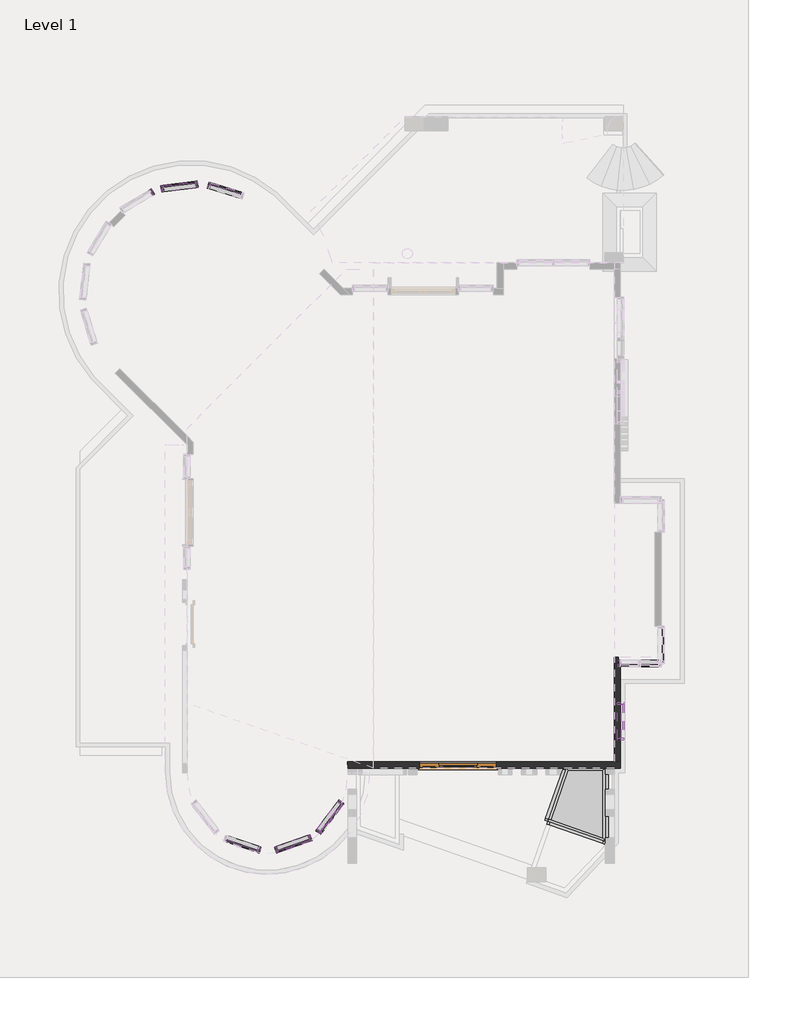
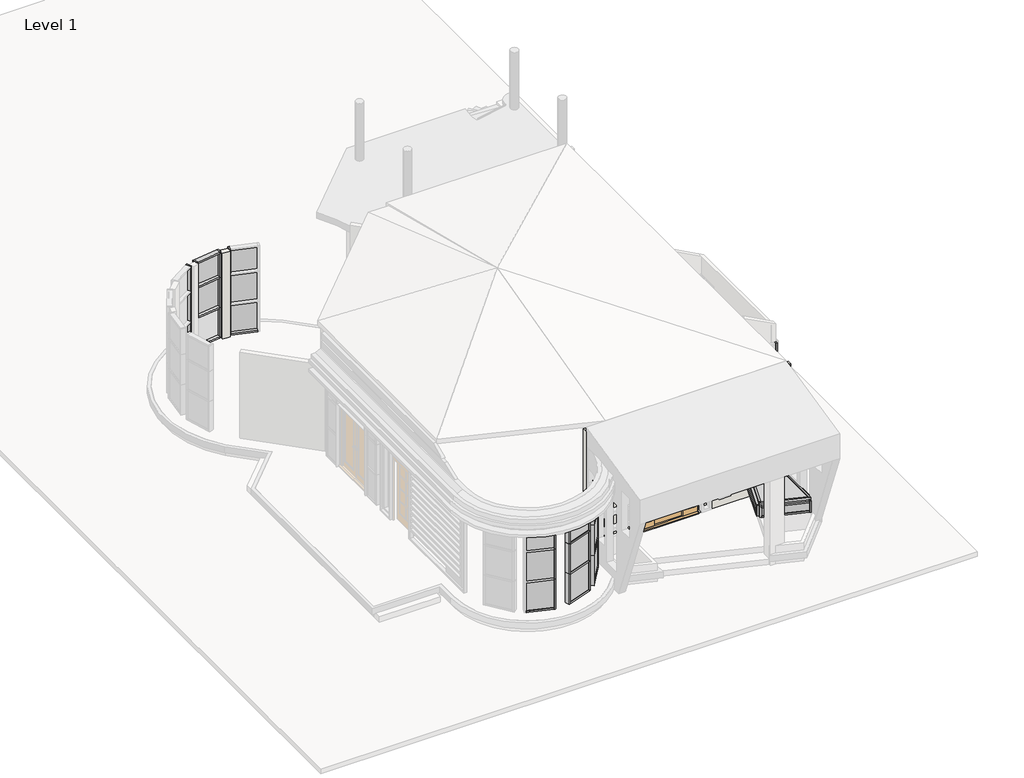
# One storey, part 2 of 4: 67 members, 24 plates, 5 walls, 1 door.
"""IFC4 building model written with IfcOpenShell, lengths in millimetres."""

from ifc_helpers import new_model, si_unit, point, frame, frame_2d, origin, origin_with_axes, place, context, project, spatial, polyline, circle_curve, trimmed, segment, composite_curve, outline, extrude, faceted_brep, transform, mapped, element, save
from ifc_brep_helpers import plane_surface, revolved_surface, advanced_brep
from components import door_assembly_sgl_1810mm_opening_with_926_leaf_9757ed1b, rectangular_mullion_50_x_150mm_13f891bf, rectangular_mullion_50_x_150mm_97641222, rectangular_mullion_50_x_150mm_3a621c38, rectangular_mullion_50_x_150mm_eeb88b28, rectangular_mullion_50_x_150mm_bbba4ab8, rectangular_mullion_50_x_150mm_48361b01, rectangular_mullion_50_x_150mm_ee81d58a, rectangular_mullion_50_x_150mm_74a08e02, rectangular_mullion_50_x_150mm_2be98281, rectangular_mullion_50_x_150mm_4646c6ee, rectangular_mullion_50_x_150mm_daea3674, rectangular_mullion_50_x_150mm_5f51f6d8, rectangular_mullion_50_x_150mm_5cce3f76, rectangular_mullion_50_x_150mm_b83c4d09, rectangular_mullion_50_x_150mm_16fa530b, rectangular_mullion_50_x_150mm_766d3ac7, rectangular_mullion_50_x_150mm_7725a657, rectangular_mullion_50_x_150mm_d930d7b6, rectangular_mullion_50_x_150mm_c1b074c6, rectangular_mullion_50_x_150mm_6b703a19, rectangular_mullion_50_x_150mm_84e0e8e7, system_panel_glazed_3806e4db, system_panel_glazed_63c8d6ba, system_panel_glazed_2e86a5ac, system_panel_glazed_273a2703, system_panel_glazed_25410d68, system_panel_glazed_165b51f8, system_panel_glazed_b436b430, system_panel_glazed_7936f581, system_panel_glazed_d253aa96, system_panel_glazed_11873290, system_panel_glazed_95d26cfe, system_panel_glazed_8d2e26c9, system_panel_glazed_6dbe1d55, system_panel_glazed_d75f38c2, system_panel_glazed_89d05f72, system_panel_glazed_453545d8, system_panel_glazed_4c1991e1, system_panel_glazed_4431897c, system_panel_glazed_b51f43c0, system_panel_glazed_f0325da4, system_panel_glazed_f2c8e767, system_panel_glazed_b2c14eaf

model = new_model("IFC4")

# Units and contexts
model_context = context("Model", 3, world=origin())
ifc_project = project(units=[si_unit("LENGTHUNIT", "METRE", prefix="MILLI")], contexts=[model_context])

# Site, building, storey
site = spatial("IfcSite", under=ifc_project)
building = spatial("IfcBuilding", under=site)
storey = spatial("IfcBuildingStorey", under=building, Name="Level 1", Elevation=0.0)

# Door
placement = place(None, origin())
door_assembly_sgl_1810mm_opening_with_926_leaf_shape = door_assembly_sgl_1810mm_opening_with_926_leaf_9757ed1b(model_context)
element("IfcDoor", 1, ObjectType="Door Assembly Sgl : 1810mm Opening with 926 Leaf", at=placement, inside=storey, context=model_context, shape_type="MappedRepresentation", body=[
    mapped(door_assembly_sgl_1810mm_opening_with_926_leaf_shape, transform((37487.3942411, 16991.0716817, 360.0), x_axis=(-1.0, 0.0, 0.0), y_axis=(0.0, -1.0, 0.0), z_axis=(0.0, 0.0, 1.0))),
])

# Members
rectangular_mullion_50_x_150mm_shape = rectangular_mullion_50_x_150mm_13f891bf(model_context)
element("IfcMember", 2, ObjectType="Rectangular Mullion : 50 x 150mm", at=placement, inside=storey, context=model_context, shape_type="MappedRepresentation", body=[
    mapped(rectangular_mullion_50_x_150mm_shape, transform((31370.6859933, 30603.0232362, 360.0), x_axis=(0.0, 0.0, -1.0), y_axis=(-0.29965542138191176, -0.954047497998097, 0.0), z_axis=(-0.954047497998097, 0.29965542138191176, 0.0))),
])
rectangular_mullion_50_x_150mm_2_shape = rectangular_mullion_50_x_150mm_97641222(model_context)
element("IfcMember", 3, ObjectType="Rectangular Mullion : 50 x 150mm", at=placement, inside=storey, context=model_context, shape_type="MappedRepresentation", body=[
    mapped(rectangular_mullion_50_x_150mm_2_shape, transform((30266.2914527, 30538.925774, 360.0), x_axis=(0.0, 0.0, -1.0), y_axis=(0.1248486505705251, -0.9921757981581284, 0.0), z_axis=(-0.9921757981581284, -0.1248486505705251, 0.0))),
])
rectangular_mullion_50_x_150mm_3_shape = rectangular_mullion_50_x_150mm_3a621c38(model_context)
element("IfcMember", 4, ObjectType="Rectangular Mullion : 50 x 150mm", at=placement, inside=storey, context=model_context, shape_type="MappedRepresentation", body=[
    mapped(rectangular_mullion_50_x_150mm_3_shape, transform((31023.8252581, 30634.248673, 1360.0), x_axis=(0.0, 0.0, 1.0), y_axis=(0.1248486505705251, -0.9921757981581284, 0.0), z_axis=(0.9921757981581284, 0.1248486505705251, 0.0))),
])
rectangular_mullion_50_x_150mm_4_shape = rectangular_mullion_50_x_150mm_eeb88b28(model_context)
element("IfcMember", 5, ObjectType="Rectangular Mullion : 50 x 150mm", at=placement, inside=storey, context=model_context, shape_type="MappedRepresentation", body=[
    mapped(rectangular_mullion_50_x_150mm_4_shape, transform((31073.434048, 30640.4911055, 360.0), x_axis=(0.9921757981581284, 0.1248486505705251, 0.0), y_axis=(0.1248486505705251, -0.9921757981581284, 0.0), z_axis=(0.0, 0.0, -1.0))),
])
element("IfcMember", 6, ObjectType="Rectangular Mullion : 50 x 150mm", at=placement, inside=storey, context=model_context, shape_type="MappedRepresentation", body=[
    mapped(rectangular_mullion_50_x_150mm_4_shape, transform((30018.1657035, 30464.1523722, 360.0), x_axis=(0.8576176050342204, 0.514287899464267, 0.0), y_axis=(0.514287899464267, -0.8576176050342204, 0.0), z_axis=(0.0, 0.0, -1.0))),
])
element("IfcMember", 7, ObjectType="Rectangular Mullion : 50 x 150mm", at=placement, inside=storey, context=model_context, shape_type="MappedRepresentation", body=[
    mapped(rectangular_mullion_50_x_150mm_4_shape, transform((32907.9639385, 14995.3118702, 360.0), x_axis=(-0.9438397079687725, -0.3304037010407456, 0.0), y_axis=(-0.3304037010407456, 0.9438397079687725, 0.0), z_axis=(0.0, 0.0, -1.0))),
])
element("IfcMember", 8, ObjectType="Rectangular Mullion : 50 x 150mm", at=placement, inside=storey, context=model_context, shape_type="MappedRepresentation", body=[
    mapped(rectangular_mullion_50_x_150mm_4_shape, transform((33905.0764025, 15406.0798059, 360.0), x_axis=(-0.6047016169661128, -0.7964521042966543, 0.0), y_axis=(-0.7964521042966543, 0.6047016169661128, 0.0), z_axis=(0.0, 0.0, -1.0))),
])
element("IfcMember", 9, ObjectType="Rectangular Mullion : 50 x 150mm", at=placement, inside=storey, context=model_context, shape_type="MappedRepresentation", body=[
    mapped(rectangular_mullion_50_x_150mm_4_shape, transform((40959.1830624, 19377.4424795, 342.0479065), x_axis=(-1.0, 0.0, 0.0), y_axis=(0.0, 1.0, 0.0), z_axis=(0.0, 0.0, -1.0))),
])
element("IfcMember", 10, ObjectType="Rectangular Mullion : 50 x 150mm", at=placement, inside=storey, context=model_context, shape_type="MappedRepresentation", body=[
    mapped(rectangular_mullion_50_x_150mm_4_shape, transform((31073.434048, 30640.4911055, 1360.0), x_axis=(0.9921757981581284, 0.1248486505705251, 0.0), y_axis=(0.1248486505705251, -0.9921757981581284, 0.0), z_axis=(0.0, 0.0, -1.0))),
])
element("IfcMember", 11, ObjectType="Rectangular Mullion : 50 x 150mm", at=placement, inside=storey, context=model_context, shape_type="MappedRepresentation", body=[
    mapped(rectangular_mullion_50_x_150mm_4_shape, transform((30018.1657035, 30464.1523722, 1360.0), x_axis=(0.8576176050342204, 0.514287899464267, 0.0), y_axis=(0.514287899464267, -0.8576176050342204, 0.0), z_axis=(0.0, 0.0, -1.0))),
])
element("IfcMember", 12, ObjectType="Rectangular Mullion : 50 x 150mm", at=placement, inside=storey, context=model_context, shape_type="MappedRepresentation", body=[
    mapped(rectangular_mullion_50_x_150mm_4_shape, transform((32907.9639385, 14995.3118702, 1360.0), x_axis=(-0.9438397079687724, -0.3304037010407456, 0.0), y_axis=(-0.3304037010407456, 0.9438397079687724, 0.0), z_axis=(0.0, 0.0, -1.0))),
])
element("IfcMember", 13, ObjectType="Rectangular Mullion : 50 x 150mm", at=placement, inside=storey, context=model_context, shape_type="MappedRepresentation", body=[
    mapped(rectangular_mullion_50_x_150mm_4_shape, transform((33905.0764025, 15406.0798059, 1360.0), x_axis=(-0.6047016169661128, -0.7964521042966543, 0.0), y_axis=(-0.7964521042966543, 0.6047016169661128, 0.0), z_axis=(0.0, 0.0, -1.0))),
])
element("IfcMember", 14, ObjectType="Rectangular Mullion : 50 x 150mm", at=placement, inside=storey, context=model_context, shape_type="MappedRepresentation", body=[
    mapped(rectangular_mullion_50_x_150mm_4_shape, transform((40959.1830624, 19377.4424795, 1342.0479065), x_axis=(-1.0, 0.0, 0.0), y_axis=(0.0, 1.0, 0.0), z_axis=(0.0, 0.0, -1.0))),
])
element("IfcMember", 15, ObjectType="Rectangular Mullion : 50 x 150mm", at=placement, inside=storey, context=model_context, shape_type="MappedRepresentation", body=[
    mapped(rectangular_mullion_50_x_150mm_4_shape, transform((31322.9836184, 30618.0060072, 1360.0), x_axis=(-0.954047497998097, 0.29965542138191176, 0.0), y_axis=(-0.29965542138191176, -0.954047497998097, 0.0), z_axis=(0.0, 0.0, 1.0))),
])
element("IfcMember", 16, ObjectType="Rectangular Mullion : 50 x 150mm", at=placement, inside=storey, context=model_context, shape_type="MappedRepresentation", body=[
    mapped(rectangular_mullion_50_x_150mm_4_shape, transform((30216.6826628, 30532.6833415, 1360.0), x_axis=(-0.9921757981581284, -0.1248486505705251, 0.0), y_axis=(0.1248486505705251, -0.9921757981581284, 0.0), z_axis=(0.0, 0.0, 1.0))),
])
element("IfcMember", 17, ObjectType="Rectangular Mullion : 50 x 150mm", at=placement, inside=storey, context=model_context, shape_type="MappedRepresentation", body=[
    mapped(rectangular_mullion_50_x_150mm_4_shape, transform((32538.4228334, 14993.7088834, 1360.0), x_axis=(0.9470945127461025, -0.32095480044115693, 0.0), y_axis=(0.32095480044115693, 0.9470945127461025, 0.0), z_axis=(0.0, 0.0, 1.0))),
])
element("IfcMember", 18, ObjectType="Rectangular Mullion : 50 x 150mm", at=placement, inside=storey, context=model_context, shape_type="MappedRepresentation", body=[
    mapped(rectangular_mullion_50_x_150mm_4_shape, transform((33739.2176416, 15286.3033359, 1360.0), x_axis=(0.9438397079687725, 0.3304037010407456, 0.0), y_axis=(-0.3304037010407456, 0.9438397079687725, 0.0), z_axis=(0.0, 0.0, 1.0))),
])
element("IfcMember", 19, ObjectType="Rectangular Mullion : 50 x 150mm", at=placement, inside=storey, context=model_context, shape_type="MappedRepresentation", body=[
    mapped(rectangular_mullion_50_x_150mm_4_shape, transform((34453.7796255, 16128.7764621, 1360.0), x_axis=(0.6047016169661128, 0.7964521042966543, 0.0), y_axis=(-0.7964521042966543, 0.6047016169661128, 0.0), z_axis=(0.0, 0.0, 1.0))),
])
element("IfcMember", 20, ObjectType="Rectangular Mullion : 50 x 150mm", at=placement, inside=storey, context=model_context, shape_type="MappedRepresentation", body=[
    mapped(rectangular_mullion_50_x_150mm_4_shape, transform((31322.9836184, 30618.0060072, 2360.0), x_axis=(-0.954047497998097, 0.2996554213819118, 0.0), y_axis=(-0.2996554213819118, -0.954047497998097, 0.0), z_axis=(0.0, 0.0, 1.0))),
])
element("IfcMember", 21, ObjectType="Rectangular Mullion : 50 x 150mm", at=placement, inside=storey, context=model_context, shape_type="MappedRepresentation", body=[
    mapped(rectangular_mullion_50_x_150mm_4_shape, transform((30216.6826628, 30532.6833415, 2360.0), x_axis=(-0.9921757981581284, -0.1248486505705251, 0.0), y_axis=(0.1248486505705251, -0.9921757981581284, 0.0), z_axis=(0.0, 0.0, 1.0))),
])
element("IfcMember", 22, ObjectType="Rectangular Mullion : 50 x 150mm", at=placement, inside=storey, context=model_context, shape_type="MappedRepresentation", body=[
    mapped(rectangular_mullion_50_x_150mm_4_shape, transform((32538.4228334, 14993.7088834, 2360.0), x_axis=(0.9470945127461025, -0.32095480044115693, 0.0), y_axis=(0.32095480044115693, 0.9470945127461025, 0.0), z_axis=(0.0, 0.0, 1.0))),
])
element("IfcMember", 23, ObjectType="Rectangular Mullion : 50 x 150mm", at=placement, inside=storey, context=model_context, shape_type="MappedRepresentation", body=[
    mapped(rectangular_mullion_50_x_150mm_4_shape, transform((33739.2176416, 15286.3033359, 2360.0), x_axis=(0.9438397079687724, 0.3304037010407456, 0.0), y_axis=(-0.3304037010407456, 0.9438397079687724, 0.0), z_axis=(0.0, 0.0, 1.0))),
])
element("IfcMember", 24, ObjectType="Rectangular Mullion : 50 x 150mm", at=placement, inside=storey, context=model_context, shape_type="MappedRepresentation", body=[
    mapped(rectangular_mullion_50_x_150mm_4_shape, transform((34453.7796255, 16128.7764621, 2360.0), x_axis=(0.6047016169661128, 0.7964521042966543, 0.0), y_axis=(-0.7964521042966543, 0.6047016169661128, 0.0), z_axis=(0.0, 0.0, 1.0))),
])
rectangular_mullion_50_x_150mm_5_shape = rectangular_mullion_50_x_150mm_bbba4ab8(model_context)
element("IfcMember", 25, ObjectType="Rectangular Mullion : 50 x 150mm", at=placement, inside=storey, context=model_context, shape_type="MappedRepresentation", body=[
    mapped(rectangular_mullion_50_x_150mm_5_shape, transform((31322.9836184, 30618.0060072, 3200.0), x_axis=(-0.954047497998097, 0.2996554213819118, 0.0), y_axis=(-0.2996554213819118, -0.954047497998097, 0.0), z_axis=(0.0, 0.0, 1.0))),
])
element("IfcMember", 26, ObjectType="Rectangular Mullion : 50 x 150mm", at=placement, inside=storey, context=model_context, shape_type="MappedRepresentation", body=[
    mapped(rectangular_mullion_50_x_150mm_5_shape, transform((30216.6826628, 30532.6833415, 3200.0), x_axis=(-0.9921757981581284, -0.12484865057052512, 0.0), y_axis=(0.12484865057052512, -0.9921757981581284, 0.0), z_axis=(0.0, 0.0, 1.0))),
])
element("IfcMember", 27, ObjectType="Rectangular Mullion : 50 x 150mm", at=placement, inside=storey, context=model_context, shape_type="MappedRepresentation", body=[
    mapped(rectangular_mullion_50_x_150mm_5_shape, transform((32538.4228334, 14993.7088834, 3200.0), x_axis=(0.9470945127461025, -0.32095480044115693, 0.0), y_axis=(0.32095480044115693, 0.9470945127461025, 0.0), z_axis=(0.0, 0.0, 1.0))),
])
element("IfcMember", 28, ObjectType="Rectangular Mullion : 50 x 150mm", at=placement, inside=storey, context=model_context, shape_type="MappedRepresentation", body=[
    mapped(rectangular_mullion_50_x_150mm_5_shape, transform((33739.2176416, 15286.3033359, 3200.0), x_axis=(0.9438397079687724, 0.3304037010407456, 0.0), y_axis=(-0.3304037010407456, 0.9438397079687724, 0.0), z_axis=(0.0, 0.0, 1.0))),
])
element("IfcMember", 29, ObjectType="Rectangular Mullion : 50 x 150mm", at=placement, inside=storey, context=model_context, shape_type="MappedRepresentation", body=[
    mapped(rectangular_mullion_50_x_150mm_5_shape, transform((34453.7796255, 16128.7764621, 3200.0), x_axis=(0.6047016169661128, 0.7964521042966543, 0.0), y_axis=(-0.7964521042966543, 0.6047016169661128, 0.0), z_axis=(0.0, 0.0, 1.0))),
])
element("IfcMember", 30, ObjectType="Rectangular Mullion : 50 x 150mm", at=placement, inside=storey, context=model_context, shape_type="MappedRepresentation", body=[
    mapped(rectangular_mullion_50_x_150mm_5_shape, transform((31073.434048, 30640.4911055, 2360.0), x_axis=(0.9921757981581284, 0.12484865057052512, 0.0), y_axis=(0.12484865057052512, -0.9921757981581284, 0.0), z_axis=(0.0, 0.0, -1.0))),
])
element("IfcMember", 31, ObjectType="Rectangular Mullion : 50 x 150mm", at=placement, inside=storey, context=model_context, shape_type="MappedRepresentation", body=[
    mapped(rectangular_mullion_50_x_150mm_5_shape, transform((30018.1657035, 30464.1523722, 2360.0), x_axis=(0.8576176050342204, 0.5142878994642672, 0.0), y_axis=(0.5142878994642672, -0.8576176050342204, 0.0), z_axis=(0.0, 0.0, -1.0))),
])
element("IfcMember", 32, ObjectType="Rectangular Mullion : 50 x 150mm", at=placement, inside=storey, context=model_context, shape_type="MappedRepresentation", body=[
    mapped(rectangular_mullion_50_x_150mm_5_shape, transform((32907.9639385, 14995.3118702, 2360.0), x_axis=(-0.9438397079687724, -0.3304037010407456, 0.0), y_axis=(-0.3304037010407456, 0.9438397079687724, 0.0), z_axis=(0.0, 0.0, -1.0))),
])
element("IfcMember", 33, ObjectType="Rectangular Mullion : 50 x 150mm", at=placement, inside=storey, context=model_context, shape_type="MappedRepresentation", body=[
    mapped(rectangular_mullion_50_x_150mm_5_shape, transform((33905.0764025, 15406.0798059, 2360.0), x_axis=(-0.6047016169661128, -0.7964521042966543, 0.0), y_axis=(-0.7964521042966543, 0.6047016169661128, 0.0), z_axis=(0.0, 0.0, -1.0))),
])
element("IfcMember", 34, ObjectType="Rectangular Mullion : 50 x 150mm", at=placement, inside=storey, context=model_context, shape_type="MappedRepresentation", body=[
    mapped(rectangular_mullion_50_x_150mm_2_shape, transform((31023.8252581, 30634.248673, 3200.0), x_axis=(0.0, 0.0, 1.0), y_axis=(0.1248486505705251, -0.9921757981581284, 0.0), z_axis=(0.9921757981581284, 0.1248486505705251, 0.0))),
])
element("IfcMember", 35, ObjectType="Rectangular Mullion : 50 x 150mm", at=placement, inside=storey, context=model_context, shape_type="MappedRepresentation", body=[
    mapped(rectangular_mullion_50_x_150mm_3_shape, transform((31023.8252581, 30634.248673, 2360.0), x_axis=(0.0, 0.0, 1.0), y_axis=(0.1248486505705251, -0.9921757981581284, 0.0), z_axis=(0.9921757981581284, 0.1248486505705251, 0.0))),
])
rectangular_mullion_50_x_150mm_6_shape = rectangular_mullion_50_x_150mm_48361b01(model_context)
element("IfcMember", 36, ObjectType="Rectangular Mullion : 50 x 150mm", at=placement, inside=storey, context=model_context, shape_type="MappedRepresentation", body=[
    mapped(rectangular_mullion_50_x_150mm_6_shape, transform((32491.0681078, 15009.7566235, 360.0), x_axis=(0.0, 0.0, -1.0), y_axis=(0.3209548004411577, 0.9470945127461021, 0.0), z_axis=(0.9470945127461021, -0.3209548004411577, 0.0))),
])
rectangular_mullion_50_x_150mm_7_shape = rectangular_mullion_50_x_150mm_ee81d58a(model_context)
element("IfcMember", 37, ObjectType="Rectangular Mullion : 50 x 150mm", at=placement, inside=storey, context=model_context, shape_type="MappedRepresentation", body=[
    mapped(rectangular_mullion_50_x_150mm_7_shape, transform((33692.0256562, 15269.7831509, 360.0), x_axis=(0.0, 0.0, -1.0), y_axis=(-0.3304037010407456, 0.9438397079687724, 0.0), z_axis=(0.9438397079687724, 0.3304037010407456, 0.0))),
])
rectangular_mullion_50_x_150mm_8_shape = rectangular_mullion_50_x_150mm_74a08e02(model_context)
element("IfcMember", 38, ObjectType="Rectangular Mullion : 50 x 150mm", at=placement, inside=storey, context=model_context, shape_type="MappedRepresentation", body=[
    mapped(rectangular_mullion_50_x_150mm_8_shape, transform((32955.1559239, 15011.8320553, 1360.0), x_axis=(0.0, 0.0, 1.0), y_axis=(-0.3304037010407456, 0.9438397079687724, 0.0), z_axis=(-0.9438397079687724, -0.3304037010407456, 0.0))),
])
rectangular_mullion_50_x_150mm_9_shape = rectangular_mullion_50_x_150mm_2be98281(model_context)
element("IfcMember", 39, ObjectType="Rectangular Mullion : 50 x 150mm", at=placement, inside=storey, context=model_context, shape_type="MappedRepresentation", body=[
    mapped(rectangular_mullion_50_x_150mm_9_shape, transform((34423.5445446, 16088.9538569, 360.0), x_axis=(0.0, 0.0, -1.0), y_axis=(-0.7964521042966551, 0.6047016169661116, 0.0), z_axis=(0.6047016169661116, 0.7964521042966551, 0.0))),
])
rectangular_mullion_50_x_150mm_10_shape = rectangular_mullion_50_x_150mm_4646c6ee(model_context)
element("IfcMember", 40, ObjectType="Rectangular Mullion : 50 x 150mm", at=placement, inside=storey, context=model_context, shape_type="MappedRepresentation", body=[
    mapped(rectangular_mullion_50_x_150mm_10_shape, transform((33935.3114833, 15445.9024111, 1360.0), x_axis=(0.0, 0.0, 1.0), y_axis=(-0.7964521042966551, 0.6047016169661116, 0.0), z_axis=(-0.6047016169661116, -0.7964521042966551, 0.0))),
])
element("IfcMember", 41, ObjectType="Rectangular Mullion : 50 x 150mm", at=placement, inside=storey, context=model_context, shape_type="MappedRepresentation", body=[
    mapped(rectangular_mullion_50_x_150mm_7_shape, transform((32955.1559239, 15011.8320553, 3200.0), x_axis=(0.0, 0.0, 1.0), y_axis=(-0.3304037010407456, 0.9438397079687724, 0.0), z_axis=(-0.9438397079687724, -0.3304037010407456, 0.0))),
])
element("IfcMember", 42, ObjectType="Rectangular Mullion : 50 x 150mm", at=placement, inside=storey, context=model_context, shape_type="MappedRepresentation", body=[
    mapped(rectangular_mullion_50_x_150mm_8_shape, transform((32955.1559239, 15011.8320553, 2360.0), x_axis=(0.0, 0.0, 1.0), y_axis=(-0.3304037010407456, 0.9438397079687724, 0.0), z_axis=(-0.9438397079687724, -0.3304037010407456, 0.0))),
])
element("IfcMember", 43, ObjectType="Rectangular Mullion : 50 x 150mm", at=placement, inside=storey, context=model_context, shape_type="MappedRepresentation", body=[
    mapped(rectangular_mullion_50_x_150mm_9_shape, transform((33935.3114833, 15445.9024111, 3200.0), x_axis=(0.0, 0.0, 1.0), y_axis=(-0.7964521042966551, 0.6047016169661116, 0.0), z_axis=(-0.6047016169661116, -0.7964521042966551, 0.0))),
])
element("IfcMember", 44, ObjectType="Rectangular Mullion : 50 x 150mm", at=placement, inside=storey, context=model_context, shape_type="MappedRepresentation", body=[
    mapped(rectangular_mullion_50_x_150mm_10_shape, transform((33935.3114833, 15445.9024111, 2360.0), x_axis=(0.0, 0.0, 1.0), y_axis=(-0.7964521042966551, 0.6047016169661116, 0.0), z_axis=(-0.6047016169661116, -0.7964521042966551, 0.0))),
])
rectangular_mullion_50_x_150mm_11_shape = rectangular_mullion_50_x_150mm_daea3674(model_context)
element("IfcMember", 45, ObjectType="Rectangular Mullion : 50 x 150mm", at=placement, inside=storey, context=model_context, shape_type="MappedRepresentation", body=[
    mapped(rectangular_mullion_50_x_150mm_11_shape, transform((41009.1830624, 19377.4424795, 3200.0), x_axis=(0.0, 0.0, 1.0), y_axis=(0.0, 1.0, 0.0), z_axis=(-1.0, 0.0, 0.0))),
])
element("IfcMember", 46, ObjectType="Rectangular Mullion : 50 x 150mm", at=placement, inside=storey, context=model_context, shape_type="MappedRepresentation", body=[
    mapped(rectangular_mullion_50_x_150mm_11_shape, transform((41919.1830624, 19377.4424795, 342.0479065), x_axis=(0.0, 0.0, -1.0), y_axis=(0.0, 1.0, 0.0), z_axis=(1.0, 0.0, 0.0))),
])
rectangular_mullion_50_x_150mm_12_shape = rectangular_mullion_50_x_150mm_5f51f6d8(model_context)
element("IfcMember", 47, ObjectType="Rectangular Mullion : 50 x 150mm", at=placement, inside=storey, context=model_context, shape_type="MappedRepresentation", body=[
    mapped(rectangular_mullion_50_x_150mm_12_shape, transform((41014.1830624, 17626.0716817, 3000.0), x_axis=(0.0, 0.0, 1.0), y_axis=(-1.0, 0.0, 0.0), z_axis=(0.0, -1.0, 0.0))),
])
element("IfcMember", 48, ObjectType="Rectangular Mullion : 50 x 150mm", at=placement, inside=storey, context=model_context, shape_type="MappedRepresentation", body=[
    mapped(rectangular_mullion_50_x_150mm_12_shape, transform((41014.1830624, 18422.4424795, 2000.0), x_axis=(0.0, 0.0, -1.0), y_axis=(-1.0, 0.0, 0.0), z_axis=(0.0, 1.0, 0.0))),
])
element("IfcMember", 49, ObjectType="Rectangular Mullion : 50 x 150mm", at=placement, inside=storey, context=model_context, shape_type="MappedRepresentation", body=[
    mapped(rectangular_mullion_50_x_150mm_4_shape, transform((41014.1830624, 17576.0716817, 2000.0), x_axis=(0.0, -1.0, 0.0), y_axis=(-1.0, 0.0, 0.0), z_axis=(0.0, 0.0, -1.0))),
])
element("IfcMember", 50, ObjectType="Rectangular Mullion : 50 x 150mm", at=placement, inside=storey, context=model_context, shape_type="MappedRepresentation", body=[
    mapped(rectangular_mullion_50_x_150mm_4_shape, transform((41014.1830624, 18472.4424795, 3000.0), x_axis=(0.0, 1.0, 0.0), y_axis=(-1.0, 0.0, 0.0), z_axis=(0.0, 0.0, 1.0))),
])
rectangular_mullion_50_x_150mm_13_shape = rectangular_mullion_50_x_150mm_5cce3f76(model_context)
element("IfcMember", 51, ObjectType="Rectangular Mullion : 50 x 150mm", at=placement, inside=storey, context=model_context, shape_type="MappedRepresentation", body=[
    mapped(rectangular_mullion_50_x_150mm_13_shape, transform((41969.1830624, 19377.4424795, 3200.0), x_axis=(1.0, 0.0, 0.0), y_axis=(0.0, 1.0, 0.0), z_axis=(0.0, 0.0, 1.0))),
])
element("IfcMember", 52, ObjectType="Rectangular Mullion : 50 x 150mm", at=placement, inside=storey, context=model_context, shape_type="MappedRepresentation", body=[
    mapped(rectangular_mullion_50_x_150mm_13_shape, transform((40959.1830624, 19377.4424795, 2342.0479065), x_axis=(-1.0, 0.0, 0.0), y_axis=(0.0, 1.0, 0.0), z_axis=(0.0, 0.0, -1.0))),
])
rectangular_mullion_50_x_150mm_14_shape = rectangular_mullion_50_x_150mm_b83c4d09(model_context)
element("IfcMember", 53, ObjectType="Rectangular Mullion : 50 x 150mm", at=placement, inside=storey, context=model_context, shape_type="MappedRepresentation", body=[
    mapped(rectangular_mullion_50_x_150mm_14_shape, transform((39355.9914511, 15659.3223, 600.0), x_axis=(0.0, 0.0, -1.0), y_axis=(-0.3306511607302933, -0.9437530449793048, 0.0), z_axis=(-0.9437530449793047, 0.33065116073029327, 0.0))),
])
element("IfcMember", 54, ObjectType="Rectangular Mullion : 50 x 150mm", at=placement, inside=storey, context=model_context, shape_type="MappedRepresentation", body=[
    mapped(rectangular_mullion_50_x_150mm_14_shape, transform((40607.8729503, 15220.715958, 960.0), x_axis=(0.0, 0.0, 1.0), y_axis=(-0.3306511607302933, -0.9437530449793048, 0.0), z_axis=(0.9437530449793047, -0.33065116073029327, 0.0))),
])
rectangular_mullion_50_x_150mm_15_shape = rectangular_mullion_50_x_150mm_16fa530b(model_context)
element("IfcMember", 55, ObjectType="Rectangular Mullion : 50 x 150mm", at=placement, inside=storey, context=model_context, shape_type="MappedRepresentation", body=[
    mapped(rectangular_mullion_50_x_150mm_15_shape, transform((39308.8037989, 15675.854858, 960.0), x_axis=(-0.9437530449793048, 0.3306511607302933, 0.0), y_axis=(-0.3306511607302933, -0.9437530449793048, 0.0), z_axis=(0.0, 0.0, 1.0))),
])
element("IfcMember", 56, ObjectType="Rectangular Mullion : 50 x 150mm", at=placement, inside=storey, context=model_context, shape_type="MappedRepresentation", body=[
    mapped(rectangular_mullion_50_x_150mm_15_shape, transform((39743.3233318, 16916.0716817, 960.0), x_axis=(0.33065116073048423, 0.943753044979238, 0.0), y_axis=(-0.943753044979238, 0.33065116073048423, 0.0), z_axis=(0.0, 0.0, 1.0))),
])
element("IfcMember", 57, ObjectType="Rectangular Mullion : 50 x 150mm", at=placement, inside=storey, context=model_context, shape_type="MappedRepresentation", body=[
    mapped(rectangular_mullion_50_x_150mm_15_shape, transform((40655.0606025, 15204.1833999, 960.0), x_axis=(0.0, -1.0, 0.0), y_axis=(1.0, 0.0, 0.0), z_axis=(0.0, 0.0, 1.0))),
])
element("IfcMember", 58, ObjectType="Rectangular Mullion : 50 x 150mm", at=placement, inside=storey, context=model_context, shape_type="MappedRepresentation", body=[
    mapped(rectangular_mullion_50_x_150mm_15_shape, transform((40655.0606025, 15204.1833999, 600.0), x_axis=(0.9437530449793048, -0.3306511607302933, 0.0), y_axis=(-0.3306511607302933, -0.9437530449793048, 0.0), z_axis=(0.0, 0.0, -1.0))),
])
element("IfcMember", 59, ObjectType="Rectangular Mullion : 50 x 150mm", at=placement, inside=storey, context=model_context, shape_type="MappedRepresentation", body=[
    mapped(rectangular_mullion_50_x_150mm_15_shape, transform((39308.8037989, 15675.854858, 600.0), x_axis=(-0.33065116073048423, -0.943753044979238, 0.0), y_axis=(-0.943753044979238, 0.33065116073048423, 0.0), z_axis=(0.0, 0.0, -1.0))),
])
element("IfcMember", 60, ObjectType="Rectangular Mullion : 50 x 150mm", at=placement, inside=storey, context=model_context, shape_type="MappedRepresentation", body=[
    mapped(rectangular_mullion_50_x_150mm_15_shape, transform((40655.0606025, 16916.0716817, 600.0), x_axis=(0.0, 1.0, 0.0), y_axis=(1.0, 0.0, 0.0), z_axis=(0.0, 0.0, -1.0))),
])
rectangular_mullion_50_x_150mm_16_shape = rectangular_mullion_50_x_150mm_766d3ac7(model_context)
element("IfcMember", 61, ObjectType="Rectangular Mullion : 50 x 150mm", at=placement, inside=storey, context=model_context, shape_type="MappedRepresentation", body=[
    mapped(rectangular_mullion_50_x_150mm_16_shape, transform((40655.0606025, 16916.0716817, 960.0), x_axis=(0.0, 1.0, 0.0), y_axis=(0.0, 0.0, 1.0), z_axis=(1.0, 0.0, 0.0))),
])
rectangular_mullion_50_x_150mm_17_shape = rectangular_mullion_50_x_150mm_7725a657(model_context)
element("IfcMember", 62, ObjectType="Rectangular Mullion : 50 x 150mm", at=placement, inside=storey, context=model_context, shape_type="MappedRepresentation", body=[
    mapped(rectangular_mullion_50_x_150mm_17_shape, transform((39743.3233318, 16916.0716817, 960.0), x_axis=(-0.943753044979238, 0.33065116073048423, 0.0), y_axis=(0.0, 0.0, 1.0), z_axis=(0.33065116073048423, 0.943753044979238, 0.0))),
])
rectangular_mullion_50_x_150mm_18_shape = rectangular_mullion_50_x_150mm_d930d7b6(model_context)
element("IfcMember", 63, ObjectType="Rectangular Mullion : 50 x 150mm", at=placement, inside=storey, context=model_context, shape_type="MappedRepresentation", body=[
    mapped(rectangular_mullion_50_x_150mm_18_shape, transform((39308.8037989, 15675.854858, 960.0), x_axis=(-0.3306511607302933, -0.9437530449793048, 0.0), y_axis=(0.0, 0.0, 1.0), z_axis=(-0.9437530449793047, 0.33065116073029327, 0.0))),
])
rectangular_mullion_50_x_150mm_19_shape = rectangular_mullion_50_x_150mm_c1b074c6(model_context)
element("IfcMember", 64, ObjectType="Rectangular Mullion : 50 x 150mm", at=placement, inside=storey, context=model_context, shape_type="MappedRepresentation", body=[
    mapped(rectangular_mullion_50_x_150mm_19_shape, transform((40655.0606025, 15204.1833999, 960.0), x_axis=(1.0, 0.0, 0.0), y_axis=(0.0, 0.0, 1.0), z_axis=(0.0, -1.0, 0.0))),
])
rectangular_mullion_50_x_150mm_20_shape = rectangular_mullion_50_x_150mm_6b703a19(model_context)
element("IfcMember", 65, ObjectType="Rectangular Mullion : 50 x 150mm", at=placement, inside=storey, context=model_context, shape_type="MappedRepresentation", body=[
    mapped(rectangular_mullion_50_x_150mm_20_shape, transform((39726.7907738, 16868.8840294, 600.0), x_axis=(0.0, 0.0, -1.0), y_axis=(-0.943753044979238, 0.33065116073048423, 0.0), z_axis=(0.33065116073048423, 0.943753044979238, 0.0))),
])
element("IfcMember", 66, ObjectType="Rectangular Mullion : 50 x 150mm", at=placement, inside=storey, context=model_context, shape_type="MappedRepresentation", body=[
    mapped(rectangular_mullion_50_x_150mm_20_shape, transform((39325.3363569, 15723.0425102, 960.0), x_axis=(0.0, 0.0, 1.0), y_axis=(-0.943753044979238, 0.33065116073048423, 0.0), z_axis=(-0.33065116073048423, -0.943753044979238, 0.0))),
])
rectangular_mullion_50_x_150mm_21_shape = rectangular_mullion_50_x_150mm_84e0e8e7(model_context)
element("IfcMember", 67, ObjectType="Rectangular Mullion : 50 x 150mm", at=placement, inside=storey, context=model_context, shape_type="MappedRepresentation", body=[
    mapped(rectangular_mullion_50_x_150mm_21_shape, transform((40655.0606025, 15254.1833999, 600.0), x_axis=(0.0, 0.0, -1.0), y_axis=(1.0, 0.0, 0.0), z_axis=(0.0, -1.0, 0.0))),
])
element("IfcMember", 68, ObjectType="Rectangular Mullion : 50 x 150mm", at=placement, inside=storey, context=model_context, shape_type="MappedRepresentation", body=[
    mapped(rectangular_mullion_50_x_150mm_21_shape, transform((40655.0606025, 16866.0716817, 960.0), x_axis=(0.0, 0.0, 1.0), y_axis=(1.0, 0.0, 0.0), z_axis=(0.0, 1.0, 0.0))),
])

# Plates
system_panel_glazed_shape = system_panel_glazed_3806e4db(model_context)
element("IfcPlate", 69, ObjectType="System Panel : Glazed", at=placement, inside=storey, context=model_context, shape_type="MappedRepresentation", body=[
    mapped(system_panel_glazed_shape, transform((31733.5176401, 30489.0619604, 410.0), x_axis=(0.954047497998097, -0.29965542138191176, 0.0), y_axis=(0.29965542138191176, 0.954047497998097, 0.0), z_axis=(0.0, 0.0, 1.0))),
])
system_panel_glazed_2_shape = system_panel_glazed_63c8d6ba(model_context)
element("IfcPlate", 70, ObjectType="System Panel : Glazed", at=placement, inside=storey, context=model_context, shape_type="MappedRepresentation", body=[
    mapped(system_panel_glazed_2_shape, transform((31733.5176401, 30489.0619604, 1385.0), x_axis=(0.954047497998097, -0.2996554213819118, 0.0), y_axis=(0.2996554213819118, 0.954047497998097, 0.0), z_axis=(0.0, 0.0, 1.0))),
])
system_panel_glazed_3_shape = system_panel_glazed_2e86a5ac(model_context)
element("IfcPlate", 71, ObjectType="System Panel : Glazed", at=placement, inside=storey, context=model_context, shape_type="MappedRepresentation", body=[
    mapped(system_panel_glazed_3_shape, transform((30645.0583554, 30586.5872235, 1385.0), x_axis=(0.9921757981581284, 0.1248486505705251, 0.0), y_axis=(-0.1248486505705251, 0.9921757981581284, 0.0), z_axis=(0.0, 0.0, 1.0))),
])
system_panel_glazed_4_shape = system_panel_glazed_273a2703(model_context)
element("IfcPlate", 72, ObjectType="System Panel : Glazed", at=placement, inside=storey, context=model_context, shape_type="MappedRepresentation", body=[
    mapped(system_panel_glazed_4_shape, transform((30645.0583554, 30586.5872235, 2385.0), x_axis=(0.9921757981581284, 0.12484865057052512, 0.0), y_axis=(-0.12484865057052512, 0.9921757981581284, 0.0), z_axis=(0.0, 0.0, 1.0))),
])
system_panel_glazed_5_shape = system_panel_glazed_25410d68(model_context)
element("IfcPlate", 73, ObjectType="System Panel : Glazed", at=placement, inside=storey, context=model_context, shape_type="MappedRepresentation", body=[
    mapped(system_panel_glazed_5_shape, transform((31733.5176401, 30489.0619604, 2385.0), x_axis=(0.954047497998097, -0.2996554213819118, 0.0), y_axis=(0.2996554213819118, 0.954047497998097, 0.0), z_axis=(0.0, 0.0, 1.0))),
])
system_panel_glazed_6_shape = system_panel_glazed_165b51f8(model_context)
element("IfcPlate", 74, ObjectType="System Panel : Glazed", at=placement, inside=storey, context=model_context, shape_type="MappedRepresentation", body=[
    mapped(system_panel_glazed_6_shape, transform((32123.6628138, 15134.2642531, 410.0), x_axis=(-0.9470945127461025, 0.32095480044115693, 0.0), y_axis=(-0.32095480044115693, -0.9470945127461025, 0.0), z_axis=(0.0, 0.0, 1.0))),
])
system_panel_glazed_7_shape = system_panel_glazed_b436b430(model_context)
element("IfcPlate", 75, ObjectType="System Panel : Glazed", at=placement, inside=storey, context=model_context, shape_type="MappedRepresentation", body=[
    mapped(system_panel_glazed_7_shape, transform((33323.5907901, 15140.8076031, 410.0), x_axis=(-0.9438397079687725, -0.3304037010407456, 0.0), y_axis=(0.3304037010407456, -0.9438397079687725, 0.0), z_axis=(0.0, 0.0, 1.0))),
])
system_panel_glazed_8_shape = system_panel_glazed_7936f581(model_context)
element("IfcPlate", 76, ObjectType="System Panel : Glazed", at=placement, inside=storey, context=model_context, shape_type="MappedRepresentation", body=[
    mapped(system_panel_glazed_8_shape, transform((34179.428014, 15767.428134, 410.0), x_axis=(-0.6047016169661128, -0.7964521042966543, 0.0), y_axis=(0.7964521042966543, -0.6047016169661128, 0.0), z_axis=(0.0, 0.0, 1.0))),
])
system_panel_glazed_9_shape = system_panel_glazed_d253aa96(model_context)
element("IfcPlate", 77, ObjectType="System Panel : Glazed", at=placement, inside=storey, context=model_context, shape_type="MappedRepresentation", body=[
    mapped(system_panel_glazed_9_shape, transform((32123.6628138, 15134.2642531, 1385.0), x_axis=(-0.9470945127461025, 0.32095480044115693, 0.0), y_axis=(-0.32095480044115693, -0.9470945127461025, 0.0), z_axis=(0.0, 0.0, 1.0))),
])
system_panel_glazed_10_shape = system_panel_glazed_11873290(model_context)
element("IfcPlate", 78, ObjectType="System Panel : Glazed", at=placement, inside=storey, context=model_context, shape_type="MappedRepresentation", body=[
    mapped(system_panel_glazed_10_shape, transform((33323.5907901, 15140.8076031, 1385.0), x_axis=(-0.9438397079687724, -0.3304037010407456, 0.0), y_axis=(0.3304037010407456, -0.9438397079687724, 0.0), z_axis=(0.0, 0.0, 1.0))),
])
system_panel_glazed_11_shape = system_panel_glazed_95d26cfe(model_context)
element("IfcPlate", 79, ObjectType="System Panel : Glazed", at=placement, inside=storey, context=model_context, shape_type="MappedRepresentation", body=[
    mapped(system_panel_glazed_11_shape, transform((34179.428014, 15767.428134, 1385.0), x_axis=(-0.6047016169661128, -0.7964521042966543, 0.0), y_axis=(0.7964521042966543, -0.6047016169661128, 0.0), z_axis=(0.0, 0.0, 1.0))),
])
system_panel_glazed_12_shape = system_panel_glazed_8d2e26c9(model_context)
element("IfcPlate", 80, ObjectType="System Panel : Glazed", at=placement, inside=storey, context=model_context, shape_type="MappedRepresentation", body=[
    mapped(system_panel_glazed_12_shape, transform((32123.6628138, 15134.2642531, 2385.0), x_axis=(-0.9470945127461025, 0.32095480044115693, 0.0), y_axis=(-0.32095480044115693, -0.9470945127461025, 0.0), z_axis=(0.0, 0.0, 1.0))),
])
system_panel_glazed_13_shape = system_panel_glazed_6dbe1d55(model_context)
element("IfcPlate", 81, ObjectType="System Panel : Glazed", at=placement, inside=storey, context=model_context, shape_type="MappedRepresentation", body=[
    mapped(system_panel_glazed_13_shape, transform((33323.5907901, 15140.8076031, 2385.0), x_axis=(-0.9438397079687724, -0.3304037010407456, 0.0), y_axis=(0.3304037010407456, -0.9438397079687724, 0.0), z_axis=(0.0, 0.0, 1.0))),
])
system_panel_glazed_14_shape = system_panel_glazed_d75f38c2(model_context)
element("IfcPlate", 82, ObjectType="System Panel : Glazed", at=placement, inside=storey, context=model_context, shape_type="MappedRepresentation", body=[
    mapped(system_panel_glazed_14_shape, transform((34179.428014, 15767.428134, 2385.0), x_axis=(-0.6047016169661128, -0.7964521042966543, 0.0), y_axis=(0.7964521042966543, -0.6047016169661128, 0.0), z_axis=(0.0, 0.0, 1.0))),
])
system_panel_glazed_15_shape = system_panel_glazed_89d05f72(model_context)
element("IfcPlate", 83, ObjectType="System Panel : Glazed", at=placement, inside=storey, context=model_context, shape_type="MappedRepresentation", body=[
    mapped(system_panel_glazed_15_shape, transform((41704.1830624, 19377.4424795, 392.0479065), x_axis=(-1.0, 0.0, 0.0), y_axis=(0.0, -1.0, 0.0), z_axis=(0.0, 0.0, 1.0))),
])
element("IfcPlate", 84, ObjectType="System Panel : Glazed", at=placement, inside=storey, context=model_context, shape_type="MappedRepresentation", body=[
    mapped(system_panel_glazed_15_shape, transform((41224.1830624, 19377.4424795, 392.0479065), x_axis=(-1.0, 0.0, 0.0), y_axis=(0.0, -1.0, 0.0), z_axis=(0.0, 0.0, 1.0))),
])
system_panel_glazed_16_shape = system_panel_glazed_453545d8(model_context)
element("IfcPlate", 85, ObjectType="System Panel : Glazed", at=placement, inside=storey, context=model_context, shape_type="MappedRepresentation", body=[
    mapped(system_panel_glazed_16_shape, transform((41704.1830624, 19377.4424795, 1367.0479065), x_axis=(-1.0, 0.0, 0.0), y_axis=(0.0, -1.0, 0.0), z_axis=(0.0, 0.0, 1.0))),
])
element("IfcPlate", 86, ObjectType="System Panel : Glazed", at=placement, inside=storey, context=model_context, shape_type="MappedRepresentation", body=[
    mapped(system_panel_glazed_16_shape, transform((41224.1830624, 19377.4424795, 1367.0479065), x_axis=(-1.0, 0.0, 0.0), y_axis=(0.0, -1.0, 0.0), z_axis=(0.0, 0.0, 1.0))),
])
system_panel_glazed_17_shape = system_panel_glazed_4c1991e1(model_context)
element("IfcPlate", 87, ObjectType="System Panel : Glazed", at=placement, inside=storey, context=model_context, shape_type="MappedRepresentation", body=[
    mapped(system_panel_glazed_17_shape, transform((41014.1830624, 18024.2570806, 2050.0), x_axis=(0.0, -1.0, 0.0), y_axis=(1.0, 0.0, 0.0), z_axis=(0.0, 0.0, 1.0))),
])
system_panel_glazed_18_shape = system_panel_glazed_4431897c(model_context)
element("IfcPlate", 88, ObjectType="System Panel : Glazed", at=placement, inside=storey, context=model_context, shape_type="MappedRepresentation", body=[
    mapped(system_panel_glazed_18_shape, transform((41969.1830624, 19817.4424795, 392.0479065), x_axis=(0.0, -1.0, 0.0), y_axis=(1.0, 0.0, 0.0), z_axis=(0.0, 0.0, 1.0))),
])
system_panel_glazed_19_shape = system_panel_glazed_b51f43c0(model_context)
element("IfcPlate", 89, ObjectType="System Panel : Glazed", at=placement, inside=storey, context=model_context, shape_type="MappedRepresentation", body=[
    mapped(system_panel_glazed_19_shape, transform((39981.9322007, 15440.019129, 650.0), x_axis=(-0.9437530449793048, 0.3306511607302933, 0.0), y_axis=(-0.3306511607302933, -0.9437530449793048, 0.0), z_axis=(0.0, 0.0, 1.0))),
])
system_panel_glazed_20_shape = system_panel_glazed_f0325da4(model_context)
element("IfcPlate", 90, ObjectType="System Panel : Glazed", at=placement, inside=storey, context=model_context, shape_type="MappedRepresentation", body=[
    mapped(system_panel_glazed_20_shape, transform((39620.8231204, 16415.2116601, 960.0), x_axis=(0.33065116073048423, 0.943753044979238, 0.0), y_axis=(0.0, 0.0, 1.0), z_axis=(0.943753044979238, -0.33065116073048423, 0.0))),
])
system_panel_glazed_21_shape = system_panel_glazed_f2c8e767(model_context)
element("IfcPlate", 91, ObjectType="System Panel : Glazed", at=placement, inside=storey, context=model_context, shape_type="MappedRepresentation", body=[
    mapped(system_panel_glazed_21_shape, transform((39526.0635653, 16295.9632698, 650.0), x_axis=(0.33065116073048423, 0.943753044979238, 0.0), y_axis=(-0.943753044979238, 0.33065116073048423, 0.0), z_axis=(0.0, 0.0, 1.0))),
])
system_panel_glazed_22_shape = system_panel_glazed_b2c14eaf(model_context)
element("IfcPlate", 92, ObjectType="System Panel : Glazed", at=placement, inside=storey, context=model_context, shape_type="MappedRepresentation", body=[
    mapped(system_panel_glazed_22_shape, transform((40655.0606025, 16060.1275408, 650.0), x_axis=(0.0, -1.0, 0.0), y_axis=(1.0, 0.0, 0.0), z_axis=(0.0, 0.0, 1.0))),
])

# Walls
element("IfcWall", 93, ObjectType="Generic -150mm 2", at=placement, inside=storey, context=model_context, shape_type="Brep", body=[
    faceted_brep([(40864.1830624, 19377.4424795, 0.0), (40864.1830624, 17576.0716817, 0.0), (40864.1830624, 17576.0716817, 2000.0), (40864.1830624, 18472.4424795, 2000.0), (40864.1830624, 18472.4424795, 3000.0), (40864.1830624, 17576.0716817, 3000.0), (40864.1830624, 17576.0716817, 4290.0), (40864.1830624, 19532.4424795, 4290.0), (40864.1830624, 19532.4424795, 3200.0), (40864.1830624, 19527.4424795, 3200.0), (40864.1830624, 19377.4424795, 3200.0), (41014.1830624, 19377.4424795, 0.0), (41014.1830624, 19377.4424795, 3200.0), (41014.1830624, 19382.4424795, 3200.0), (41014.1830624, 19532.4424795, 3200.0), (41014.1830624, 19532.4424795, 4209.963259), (41014.1830624, 17576.0716817, 4209.963259), (41014.1830624, 17576.0716817, 3000.0), (41014.1830624, 18472.4424795, 3000.0), (41014.1830624, 18472.4424795, 2000.0), (41014.1830624, 17576.0716817, 2000.0), (41014.1830624, 17576.0716817, 0.0), (40959.1830624, 19377.4424795, 0.0), (40959.1830624, 19377.4424795, 3200.0)], [[[0, 1, 2, 3, 4, 5, 6, 7, 8, 9, 10]], [[11, 12, 13, 14, 15, 16, 17, 18, 19, 20, 21]], [[1, 0, 22, 11, 21]], [[4, 3, 19, 18]], [[2, 1, 21, 20]], [[3, 2, 20, 19]], [[5, 4, 18, 17]], [[6, 5, 17, 16]], [[8, 14, 13, 12, 23, 10, 9]], [[0, 10, 23, 12, 11, 22]], [[8, 7, 15, 14]], [[7, 6, 16, 15]]]),
])
element("IfcWall", 94, ObjectType="Generic -150mm 2", at=placement, inside=storey, context=model_context, shape_type="AdvancedBrep", body=[
    advanced_brep(
    [(41014.1830624, 17066.0716817, 0.0), (40864.1830624, 17066.0716817, 0.0), (34599.5984416, 17066.0716817, 0.0), (34599.5984416, 17066.0716817, 4270.3927387), (34599.5984416, 17066.0716817, 4290.0), (41014.1830624, 17066.0716817, 4290.0), (41014.1830624, 17066.0716817, 4209.963259), (38100.3942411, 17066.0716817, 2470.0), (36290.3942411, 17066.0716817, 2470.0), (36290.3942411, 17066.0716817, 360.0), (38100.3942411, 17066.0716817, 360.0), (41014.1830624, 16916.0716817, 0.0), (41014.1830624, 16916.0716817, 4290.0), (34608.4759486, 16916.0716817, 4290.0), (34608.4759486, 16916.0716817, 0.0), (38100.3942411, 16916.0716817, 2470.0), (38100.3942411, 16916.0716817, 360.0), (36290.3942411, 16916.0716817, 360.0), (36290.3942411, 16916.0716817, 2470.0)],
    [
        (0, 1),
        (1, 2),
        (2, 3),
        (3, 4),
        (4, 5),
        (5, 6),
        (6, 0),
        (7, 8),
        (8, 9),
        (9, 10),
        (10, 7),
        (11, 12),
        (12, 13),
        (13, 14),
        (14, 11),
        (15, 16),
        (16, 17),
        (17, 18),
        (18, 15),
        (2, 14, circle_curve(frame((32715.0177061, 16879.2731229, 0.0), z_axis=(0.0, 0.0, -1.0), x_axis=(1.0, 0.0, 0.0)), 1893.815791)),
        (13, 4, circle_curve(frame((32715.0177061, 16879.2731229, 4290.0), z_axis=(0.0, 0.0, 1.0), x_axis=(1.0, 0.0, 0.0)), 1893.815791)),
        (0, 11),
        (12, 5),
        (15, 7),
        (10, 16),
        (9, 17),
        (8, 18),
    ],
    [
        plane_surface(frame((39743.3233318, 17066.0716817, 0.0), z_axis=(0.0, 1.0, 0.0), x_axis=(-1.0, 0.0, 0.0))),
        plane_surface(frame((39743.3233318, 16916.0716817, 0.0), z_axis=(0.0, -1.0, 0.0), x_axis=(1.0, 0.0, 0.0))),
        revolved_surface(polyline([(34608.8334971, 16879.2731229, 4290.0), (34608.8334971, 16879.2731229, 0.0)]), (32715.0177061, 16879.2731229, 0.0), (0.0, 0.0, 1.0)),
        plane_surface(frame((40939.1830624, 17066.0716817, 0.0), z_axis=(0.0, 0.0, -1.0), x_axis=(0.0, -1.0, 0.0))),
        plane_surface(frame((34530.3942411, 17066.0716817, 4290.0), z_axis=(0.0, 0.0, 1.0), x_axis=(0.0, -1.0, 0.0))),
        plane_surface(frame((41014.1830624, 17546.0716817, 0.0), z_axis=(1.0, 0.0, 0.0), x_axis=(0.0, 1.0, 0.0))),
        plane_surface(frame((38100.3942411, 16916.0716817, 2470.0), z_axis=(-1.0, 0.0, 0.0), x_axis=(0.0, 1.0, 0.0))),
        plane_surface(frame((38100.3942411, 16916.0716817, 360.0), z_axis=(0.0, 0.0, 1.0), x_axis=(0.0, 1.0, 0.0))),
        plane_surface(frame((36290.3942411, 16916.0716817, 360.0), z_axis=(1.0, 0.0, 0.0), x_axis=(0.0, 1.0, 0.0))),
        plane_surface(frame((36290.3942411, 16916.0716817, 2470.0), z_axis=(0.0, 0.0, -1.0), x_axis=(0.0, 1.0, 0.0))),
    ],
    [
        (0, [[1, 2, 3, 4, 5, 6, 7], [8, 9, 10, 11]]),
        (1, [[12, 13, 14, 15], [16, 17, 18, 19]]),
        (2, [[-4, -3, 20, -14, 21]]),
        (3, [[-2, -1, 22, -15, -20]]),
        (4, [[-5, -21, -13, 23]]),
        (5, [[-7, -6, -23, -12, -22]]),
        (6, [[-16, 24, -11, 25]]),
        (7, [[-17, -25, -10, 26]]),
        (8, [[-18, -26, -9, 27]]),
        (9, [[-19, -27, -8, -24]]),
    ],
),
])
element("IfcWall", 95, ObjectType="Generic -150mm 2", at=placement, inside=storey, context=model_context, shape_type="SweptSolid", body=[
    extrude(outline(composite_curve([segment(polyline([(31322.9836184, 30618.0060072), (31302.3398295, 30469.4333517)]), True, "CONTINUOUS"), segment(trimmed(circle_curve(frame_2d((30965.1579428, 28042.7466444)), 2450.0), [point((31302.3398295, 30469.4333517))], [point((31067.1873496, 30490.6212327))], True, "CARTESIAN"), True, "CONTINUOUS"), segment(polyline([(31067.1873496, 30490.6212327), (31073.434048, 30640.4911055)]), True, "CONTINUOUS"), segment(trimmed(circle_curve(frame_2d((30965.1579428, 28042.7466444)), 2600.0), [point((31073.434048, 30640.4911055))], [point((31322.9836184, 30618.0060072))], False, "CARTESIAN"), True, "CONTINUOUS")], self_intersect=False)), origin_with_axes(), (0.0, 0.0, 1.0), 3200.0),
])
element("IfcWall", 96, ObjectType="Generic -150mm 2", at=placement, inside=storey, context=model_context, shape_type="SweptSolid", body=[
    extrude(outline(polyline([(40864.1830624, 19527.4424795), (40959.1830624, 19527.4424795), (40959.1830624, 19377.4424795), (40864.1830624, 19377.4424795), (40864.1830624, 19527.4424795)])), origin_with_axes(), (0.0, 0.0, 1.0), 3200.0),
])
element("IfcWall", 97, ObjectType="Generic -150mm 2", at=placement, inside=storey, context=model_context, shape_type="Brep", body=[
    faceted_brep([(40864.1830624, 17576.0716817, 4290.0), (40864.1830624, 17576.0716817, 3000.0), (40864.1830624, 17576.0716817, 2000.0), (40864.1830624, 17576.0716817, 0.0), (40864.1830624, 17066.0716817, 0.0), (40864.1830624, 17066.0716817, 4290.0), (41014.1830624, 17576.0716817, 0.0), (41014.1830624, 17576.0716817, 2000.0), (41014.1830624, 17576.0716817, 3000.0), (41014.1830624, 17576.0716817, 4209.963259), (41014.1830624, 17066.0716817, 4209.963259), (41014.1830624, 17066.0716817, 0.0)], [[[0, 1, 2, 3, 4, 5]], [[6, 7, 8, 9, 10, 11]], [[4, 3, 6, 11]], [[5, 4, 11, 10]], [[0, 9, 8, 7, 6, 3, 2, 1]], [[0, 5, 10, 9]]]),
])

save(model, "model.ifc")
